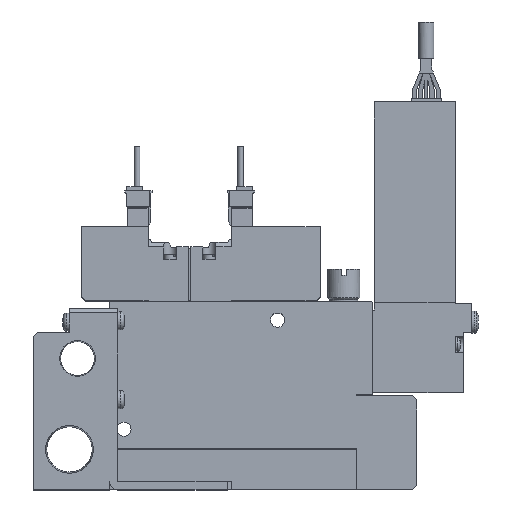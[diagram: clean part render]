
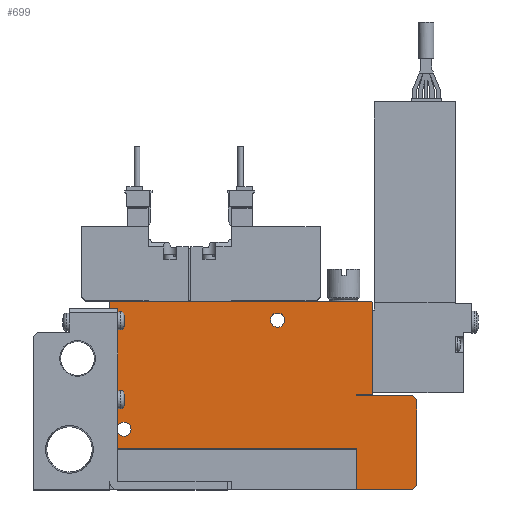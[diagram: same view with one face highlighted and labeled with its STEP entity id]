
A CAD part, top view. The second image highlights one B-rep face of the part: STEP entity #699.
In plain terms, the highlighted planar face has unit normal (0, 0, 1).
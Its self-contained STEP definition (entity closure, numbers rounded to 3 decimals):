
#699=ADVANCED_FACE('',(#1634,#1635,#1636),#1637,.F.);
#1634=FACE_OUTER_BOUND('',#2874,.T.);
#1635=FACE_BOUND('',#2875,.T.);
#1636=FACE_BOUND('',#2876,.T.);
#1637=PLANE('',#2877);
#2874=EDGE_LOOP('',(#6155,#6156,#6157,#6158,#6159,#6160,#6161,#6162,#6163,#6164,#6165,#6166,#6167,#6168));
#2875=EDGE_LOOP('',(#6169));
#2876=EDGE_LOOP('',(#6170));
#2877=AXIS2_PLACEMENT_3D('',#6171,#6172,#6173);
#6155=ORIENTED_EDGE('',*,*,#8572,.T.);
#6156=ORIENTED_EDGE('',*,*,#8573,.F.);
#6157=ORIENTED_EDGE('',*,*,#8574,.F.);
#6158=ORIENTED_EDGE('',*,*,#8575,.T.);
#6159=ORIENTED_EDGE('',*,*,#8576,.T.);
#6160=ORIENTED_EDGE('',*,*,#8577,.T.);
#6161=ORIENTED_EDGE('',*,*,#8578,.T.);
#6162=ORIENTED_EDGE('',*,*,#8579,.T.);
#6163=ORIENTED_EDGE('',*,*,#8580,.T.);
#6164=ORIENTED_EDGE('',*,*,#8581,.T.);
#6165=ORIENTED_EDGE('',*,*,#8582,.T.);
#6166=ORIENTED_EDGE('',*,*,#8570,.T.);
#6167=ORIENTED_EDGE('',*,*,#8566,.T.);
#6168=ORIENTED_EDGE('',*,*,#8583,.T.);
#6169=ORIENTED_EDGE('',*,*,#8584,.F.);
#6170=ORIENTED_EDGE('',*,*,#8585,.F.);
#6171=CARTESIAN_POINT('',(0.0,0.0,5.0));
#6172=DIRECTION('',(0.0,0.0,-1.0));
#6173=DIRECTION('',(0.0,-1.0,0.0));
#8566=EDGE_CURVE('',#10500,#10498,#10501,.T.);
#8570=EDGE_CURVE('',#10507,#10500,#10508,.T.);
#8572=EDGE_CURVE('',#10510,#10511,#10512,.T.);
#8573=EDGE_CURVE('',#10513,#10511,#10514,.T.);
#8574=EDGE_CURVE('',#10515,#10513,#10516,.T.);
#8575=EDGE_CURVE('',#10515,#10517,#10518,.T.);
#8576=EDGE_CURVE('',#10517,#10519,#10520,.T.);
#8577=EDGE_CURVE('',#10519,#10521,#10522,.T.);
#8578=EDGE_CURVE('',#10521,#10523,#10524,.T.);
#8579=EDGE_CURVE('',#10523,#10525,#10526,.T.);
#8580=EDGE_CURVE('',#10525,#10527,#10528,.T.);
#8581=EDGE_CURVE('',#10527,#10529,#10530,.T.);
#8582=EDGE_CURVE('',#10529,#10507,#10531,.T.);
#8583=EDGE_CURVE('',#10498,#10510,#10532,.T.);
#8584=EDGE_CURVE('',#10533,#10533,#10534,.T.);
#8585=EDGE_CURVE('',#10535,#10535,#10536,.T.);
#10498=VERTEX_POINT('',#13660);
#10500=VERTEX_POINT('',#13663);
#10501=LINE('',#13664,#13665);
#10507=VERTEX_POINT('',#13673);
#10508=LINE('',#13674,#13675);
#10510=VERTEX_POINT('',#13678);
#10511=VERTEX_POINT('',#13679);
#10512=LINE('',#13680,#13681);
#10513=VERTEX_POINT('',#13682);
#10514=LINE('',#13683,#13684);
#10515=VERTEX_POINT('',#13685);
#10516=LINE('',#13686,#13687);
#10517=VERTEX_POINT('',#13688);
#10518=LINE('',#13689,#13690);
#10519=VERTEX_POINT('',#13691);
#10520=LINE('',#13692,#13693);
#10521=VERTEX_POINT('',#13694);
#10522=LINE('',#13695,#13696);
#10523=VERTEX_POINT('',#13697);
#10524=LINE('',#13698,#13699);
#10525=VERTEX_POINT('',#13700);
#10526=LINE('',#13701,#13702);
#10527=VERTEX_POINT('',#13703);
#10528=LINE('',#13704,#13705);
#10529=VERTEX_POINT('',#13706);
#10530=LINE('',#13707,#13708);
#10531=LINE('',#13709,#13710);
#10532=LINE('',#13711,#13712);
#10533=VERTEX_POINT('',#13713);
#10534=CIRCLE('',#13714,1.75);
#10535=VERTEX_POINT('',#13715);
#10536=CIRCLE('',#13716,1.75);
#13660=CARTESIAN_POINT('',(0.2,46.6,5.0));
#13663=CARTESIAN_POINT('',(64.8,46.6,5.0));
#13664=CARTESIAN_POINT('',(64.8,46.6,5.0));
#13665=VECTOR('',#16460,1.0);
#13673=CARTESIAN_POINT('',(65.0,46.4,5.0));
#13674=CARTESIAN_POINT('',(65.0,46.4,5.0));
#13675=VECTOR('',#16466,1.0);
#13678=CARTESIAN_POINT('',(0.0,46.4,5.0));
#13679=CARTESIAN_POINT('',(0.0,10.1,5.0));
#13680=CARTESIAN_POINT('',(0.0,46.4,5.0));
#13681=VECTOR('',#16468,1.0);
#13682=CARTESIAN_POINT('',(61.1,10.1,5.0));
#13683=CARTESIAN_POINT('',(61.1,10.1,5.0));
#13684=VECTOR('',#16469,1.0);
#13685=CARTESIAN_POINT('',(61.1,0.0,5.0));
#13686=CARTESIAN_POINT('',(61.1,0.0,5.0));
#13687=VECTOR('',#16470,1.0);
#13688=CARTESIAN_POINT('',(75.0,0.0,5.0));
#13689=CARTESIAN_POINT('',(0.0,0.0,5.0));
#13690=VECTOR('',#16471,1.0);
#13691=CARTESIAN_POINT('',(76.0,1.0,5.0));
#13692=CARTESIAN_POINT('',(75.0,0.0,5.0));
#13693=VECTOR('',#16472,1.0);
#13694=CARTESIAN_POINT('',(76.0,22.25,5.0));
#13695=CARTESIAN_POINT('',(76.0,1.0,5.0));
#13696=VECTOR('',#16473,1.0);
#13697=CARTESIAN_POINT('',(75.0,23.25,5.0));
#13698=CARTESIAN_POINT('',(76.0,22.25,5.0));
#13699=VECTOR('',#16474,1.0);
#13700=CARTESIAN_POINT('',(61.0,23.25,5.0));
#13701=CARTESIAN_POINT('',(75.0,23.25,5.0));
#13702=VECTOR('',#16475,1.0);
#13703=CARTESIAN_POINT('',(61.0,23.5,5.0));
#13704=CARTESIAN_POINT('',(61.0,23.25,5.0));
#13705=VECTOR('',#16476,1.0);
#13706=CARTESIAN_POINT('',(65.0,23.5,5.0));
#13707=CARTESIAN_POINT('',(61.0,23.5,5.0));
#13708=VECTOR('',#16477,1.0);
#13709=CARTESIAN_POINT('',(65.0,23.5,5.0));
#13710=VECTOR('',#16478,1.0);
#13711=CARTESIAN_POINT('',(0.2,46.6,5.0));
#13712=VECTOR('',#16479,1.0);
#13713=CARTESIAN_POINT('',(5.25,15.0,5.0));
#13714=AXIS2_PLACEMENT_3D('',#16480,#16481,#16482);
#13715=CARTESIAN_POINT('',(43.25,42.0,5.0));
#13716=AXIS2_PLACEMENT_3D('',#16483,#16484,#16485);
#16460=DIRECTION('',(-1.0,0.0,0.0));
#16466=DIRECTION('',(-0.707,0.707,0.0));
#16468=DIRECTION('',(0.0,-1.0,0.0));
#16469=DIRECTION('',(-1.0,0.0,0.0));
#16470=DIRECTION('',(0.0,1.0,0.0));
#16471=DIRECTION('',(1.0,0.0,0.0));
#16472=DIRECTION('',(0.707,0.707,0.0));
#16473=DIRECTION('',(0.0,1.0,0.0));
#16474=DIRECTION('',(-0.707,0.707,0.0));
#16475=DIRECTION('',(-1.0,0.0,0.0));
#16476=DIRECTION('',(0.0,1.0,0.0));
#16477=DIRECTION('',(1.0,0.,0.0));
#16478=DIRECTION('',(0.0,1.0,0.0));
#16479=DIRECTION('',(-0.707,-0.707,0.0));
#16480=CARTESIAN_POINT('',(3.5,15.0,5.0));
#16481=DIRECTION('',(0.0,0.0,1.0));
#16482=DIRECTION('',(1.0,0.0,0.0));
#16483=CARTESIAN_POINT('',(41.5,42.0,5.0));
#16484=DIRECTION('',(0.0,0.0,1.0));
#16485=DIRECTION('',(1.0,0.0,0.0));
